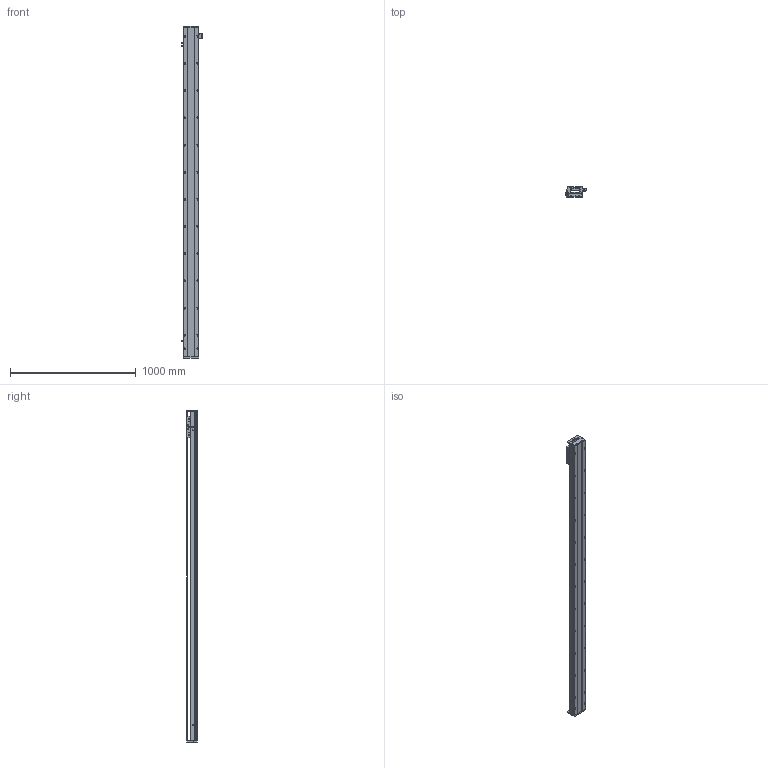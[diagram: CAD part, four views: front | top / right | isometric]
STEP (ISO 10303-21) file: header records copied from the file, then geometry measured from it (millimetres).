
FILE_DESCRIPTION (( 'STEP AP203' ), '1' );
FILE_NAME ('SKR12S-C1-S2370（简）.STEP', '2022-09-26T03:05:52', ( '' ), ( '' ), 'SwSTEP 2.0', 'SolidWorks 2018', '' );
FILE_SCHEMA (( 'CONFIG_CONTROL_DESIGN' ));
Length unit declared in the file: millimetre
Products named in the file (8): SKR12耜啣; EE-SX672; SIKO棠掑; SKR12菁釱-C1-S2370(潠); 棠掑假蚾輸; SKR12滑台-170L（简）; 覜茼え; SKR12S-C1-S2370（简）
Assembly tree (10 placements, depth 2):
  SKR12S-C1-S2370（简）
    SKR12菁釱-C1-S2370(潠)
    SKR12滑台-170L（简）
    SKR12耜啣  x2
    棠掑假蚾輸
    SIKO棠掑
    覜茼え
    EE-SX672  x3
Bounding box: 162.7 x 87.3 x 2640 mm (x, y, z)
Volume: 11234605 mm3; surface area: 1755573.5 mm2
Topology: 11 solids, 11 shells, 1168 faces, 3139 edges, 1979 vertices
Faces by surface type: cylinder 577, plane 429, cone 162
Entity records: 33379 total; most frequent: CARTESIAN_POINT 7403, DIRECTION 5349, ORIENTED_EDGE 5186, EDGE_CURVE 2593, AXIS2_PLACEMENT_3D 2005, VERTEX_POINT 1683, VECTOR 1339, LINE 1339
